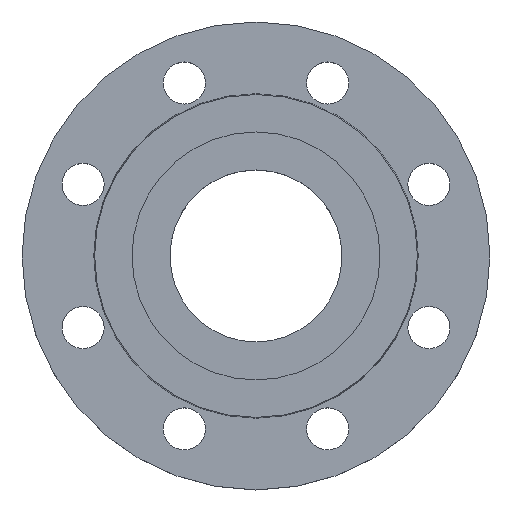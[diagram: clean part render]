
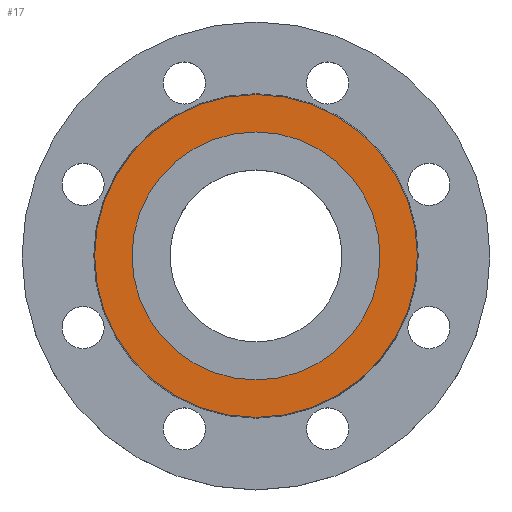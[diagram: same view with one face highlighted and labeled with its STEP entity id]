
A CAD part, top view. The second image highlights one B-rep face of the part: STEP entity #17.
In plain terms, the highlighted planar face has unit normal (0, 0, 1).
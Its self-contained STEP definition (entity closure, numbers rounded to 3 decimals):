
#17 = ADVANCED_FACE ( 'NONE', ( #799, #803 ), #804, .T. ) ;
#74 = DIRECTION ( 'NONE',  ( -1., 0., 0. ) ) ;
#75 = DIRECTION ( 'NONE',  ( 0., 0., -1. ) ) ;
#77 = CARTESIAN_POINT ( 'NONE',  ( 0., 0., 0. ) ) ;
#78 = AXIS2_PLACEMENT_3D ( 'NONE', #805, #806, #807 ) ;
#154 = CARTESIAN_POINT ( 'NONE',  ( 69., 0., 0. ) ) ;
#192 = CARTESIAN_POINT ( 'NONE',  ( 53., 0., 0. ) ) ;
#218 = CIRCLE ( 'NONE', #872, 53. ) ;
#220 = CARTESIAN_POINT ( 'NONE',  ( -69., 0., 0. ) ) ;
#255 = DIRECTION ( 'NONE',  ( -1., 0., 0. ) ) ;
#256 = DIRECTION ( 'NONE',  ( 0., 0., -1. ) ) ;
#258 = CARTESIAN_POINT ( 'NONE',  ( 0., 0., 0. ) ) ;
#333 = CARTESIAN_POINT ( 'NONE',  ( -53., 0., 0. ) ) ;
#351 = EDGE_CURVE ( 'NONE', #708, #925, #666, .T. ) ;
#453 = EDGE_CURVE ( 'NONE', #942, #913, #517, .T. ) ;
#468 = DIRECTION ( 'NONE',  ( -1., 0., 0. ) ) ;
#471 = DIRECTION ( 'NONE',  ( 0., 0., -1. ) ) ;
#472 = CARTESIAN_POINT ( 'NONE',  ( 0., 0., 0. ) ) ;
#517 = CIRCLE ( 'NONE', #574, 69. ) ;
#531 = DIRECTION ( 'NONE',  ( -1., 0., 0. ) ) ;
#532 = DIRECTION ( 'NONE',  ( 0., 0., -1. ) ) ;
#533 = CARTESIAN_POINT ( 'NONE',  ( 0., 0., 0. ) ) ;
#555 = AXIS2_PLACEMENT_3D ( 'NONE', #77, #75, #74 ) ;
#568 = AXIS2_PLACEMENT_3D ( 'NONE', #533, #532, #531 ) ;
#574 = AXIS2_PLACEMENT_3D ( 'NONE', #472, #471, #468 ) ;
#615 = CIRCLE ( 'NONE', #555, 69. ) ;
#666 = CIRCLE ( 'NONE', #568, 53. ) ;
#708 = VERTEX_POINT ( 'NONE', #333 ) ;
#788 = EDGE_LOOP ( 'NONE', ( #1074, #1075 ) ) ;
#799 = FACE_OUTER_BOUND ( 'NONE', #788, .T. ) ;
#803 = FACE_BOUND ( 'NONE', #915, .T. ) ;
#804 = PLANE ( 'NONE',  #78 ) ;
#805 = CARTESIAN_POINT ( 'NONE',  ( 0., 0., 0. ) ) ;
#806 = DIRECTION ( 'NONE',  ( 0., 0., 1. ) ) ;
#807 = DIRECTION ( 'NONE',  ( 1., 0., 0. ) ) ;
#872 = AXIS2_PLACEMENT_3D ( 'NONE', #258, #256, #255 ) ;
#897 = EDGE_CURVE ( 'NONE', #925, #708, #218, .T. ) ;
#913 = VERTEX_POINT ( 'NONE', #220 ) ;
#915 = EDGE_LOOP ( 'NONE', ( #1076, #1077 ) ) ;
#925 = VERTEX_POINT ( 'NONE', #192 ) ;
#942 = VERTEX_POINT ( 'NONE', #154 ) ;
#1074 = ORIENTED_EDGE ( 'NONE', *, *, #1094, .F. ) ;
#1075 = ORIENTED_EDGE ( 'NONE', *, *, #453, .F. ) ;
#1076 = ORIENTED_EDGE ( 'NONE', *, *, #351, .T. ) ;
#1077 = ORIENTED_EDGE ( 'NONE', *, *, #897, .T. ) ;
#1094 = EDGE_CURVE ( 'NONE', #913, #942, #615, .T. ) ;
